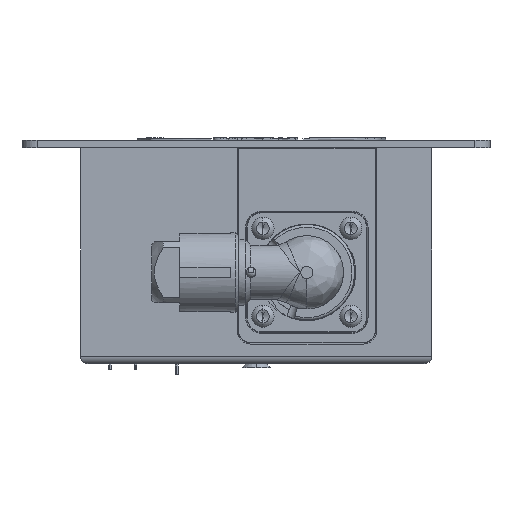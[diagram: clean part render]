
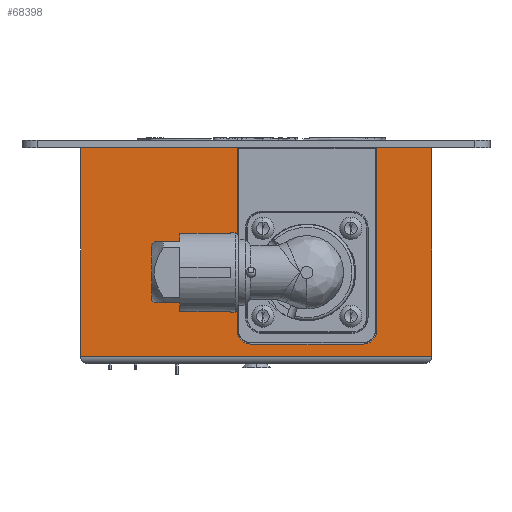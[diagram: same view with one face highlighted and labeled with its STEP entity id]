
A CAD part, front view. The second image highlights one B-rep face of the part: STEP entity #68398.
In plain terms, the highlighted planar face has unit normal (0, -1, 0).
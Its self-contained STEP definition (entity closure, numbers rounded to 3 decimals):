
#263=DIRECTION('',(-1.,0.,0.));
#264=VECTOR('',#263,10.8);
#265=CARTESIAN_POINT('',(34.525,-78.301,0.));
#266=LINE('',#265,#264);
#279=DIRECTION('',(-1.,0.,0.));
#280=VECTOR('',#279,30.8);
#281=CARTESIAN_POINT('',(-3.675,-78.301,0.));
#282=LINE('',#281,#280);
#11503=DIRECTION('',(0.,0.,-1.));
#11504=VECTOR('',#11503,41.);
#11505=CARTESIAN_POINT('',(-34.475,-78.301,0.));
#11506=LINE('',#11505,#11504);
#11511=DIRECTION('',(0.,0.,-1.));
#11512=VECTOR('',#11511,41.);
#11513=CARTESIAN_POINT('',(34.525,-78.301,0.));
#11514=LINE('',#11513,#11512);
#11515=DIRECTION('',(-1.,0.,0.));
#11516=VECTOR('',#11515,69.);
#11517=CARTESIAN_POINT('',(34.525,-78.301,-41.));
#11518=LINE('',#11517,#11516);
#11519=DIRECTION('',(0.,0.,-1.));
#11520=VECTOR('',#11519,36.);
#11521=CARTESIAN_POINT('',(-3.675,-78.301,0.));
#11522=LINE('',#11521,#11520);
#11523=DIRECTION('',(1.,0.,0.));
#11524=VECTOR('',#11523,22.2);
#11525=CARTESIAN_POINT('',(-1.075,-78.301,-38.6));
#11526=LINE('',#11525,#11524);
#11527=DIRECTION('',(0.,0.,1.));
#11528=VECTOR('',#11527,36.);
#11529=CARTESIAN_POINT('',(23.725,-78.301,-36.));
#11530=LINE('',#11529,#11528);
#11839=CARTESIAN_POINT('',(21.125,-78.301,-36.));
#11840=DIRECTION('',(0.,1.,0.));
#11841=DIRECTION('',(1.,0.,0.));
#11842=AXIS2_PLACEMENT_3D('',#11839,#11840,#11841);
#11862=CARTESIAN_POINT('',(-1.075,-78.301,-36.));
#11863=DIRECTION('',(0.,1.,0.));
#11864=DIRECTION('',(0.,0.,-1.));
#11865=AXIS2_PLACEMENT_3D('',#11862,#11863,#11864);
#50151=CARTESIAN_POINT('',(34.525,-78.301,-41.));
#50153=VERTEX_POINT('',#50151);
#50160=CARTESIAN_POINT('',(-34.475,-78.301,-41.));
#50161=VERTEX_POINT('',#50160);
#50220=CARTESIAN_POINT('',(21.125,-78.301,-38.6));
#50222=VERTEX_POINT('',#50220);
#50224=CARTESIAN_POINT('',(-1.075,-78.301,-38.6));
#50226=VERTEX_POINT('',#50224);
#50228=CARTESIAN_POINT('',(23.725,-78.301,-36.));
#50229=VERTEX_POINT('',#50228);
#50230=CARTESIAN_POINT('',(-3.675,-78.301,-36.));
#50231=VERTEX_POINT('',#50230);
#50310=CARTESIAN_POINT('',(-34.475,-78.301,0.));
#50312=VERTEX_POINT('',#50310);
#50324=CARTESIAN_POINT('',(34.525,-78.301,0.));
#50325=VERTEX_POINT('',#50324);
#50326=CARTESIAN_POINT('',(23.725,-78.301,0.));
#50327=VERTEX_POINT('',#50326);
#50328=CARTESIAN_POINT('',(-3.675,-78.301,0.));
#50329=VERTEX_POINT('',#50328);
#68374=CARTESIAN_POINT('',(34.525,-78.301,0.));
#68375=DIRECTION('',(0.,-1.,0.));
#68376=DIRECTION('',(-1.,0.,0.));
#68377=AXIS2_PLACEMENT_3D('',#68374,#68375,#68376);
#68378=PLANE('',#68377);
#68379=ORIENTED_EDGE('',*,*,#53092,.F.);
#68381=ORIENTED_EDGE('',*,*,#68380,.T.);
#68383=ORIENTED_EDGE('',*,*,#68382,.T.);
#68384=ORIENTED_EDGE('',*,*,#68366,.F.);
#68385=ORIENTED_EDGE('',*,*,#53100,.F.);
#68387=ORIENTED_EDGE('',*,*,#68386,.T.);
#68389=ORIENTED_EDGE('',*,*,#68388,.F.);
#68391=ORIENTED_EDGE('',*,*,#68390,.T.);
#68393=ORIENTED_EDGE('',*,*,#68392,.F.);
#68395=ORIENTED_EDGE('',*,*,#68394,.T.);
#68396=EDGE_LOOP('',(#68379,#68381,#68383,#68384,#68385,#68387,#68389,#68391,
#68393,#68395));
#68397=FACE_OUTER_BOUND('',#68396,.F.);
#11843=CIRCLE('',#11842,2.6);
#11866=CIRCLE('',#11865,2.6);
#53092=EDGE_CURVE('',#50325,#50327,#266,.T.);
#53100=EDGE_CURVE('',#50329,#50312,#282,.T.);
#68366=EDGE_CURVE('',#50312,#50161,#11506,.T.);
#68380=EDGE_CURVE('',#50325,#50153,#11514,.T.);
#68382=EDGE_CURVE('',#50153,#50161,#11518,.T.);
#68386=EDGE_CURVE('',#50329,#50231,#11522,.T.);
#68388=EDGE_CURVE('',#50226,#50231,#11866,.T.);
#68390=EDGE_CURVE('',#50226,#50222,#11526,.T.);
#68392=EDGE_CURVE('',#50229,#50222,#11843,.T.);
#68394=EDGE_CURVE('',#50229,#50327,#11530,.T.);
#68398=ADVANCED_FACE('',(#68397),#68378,.T.);
